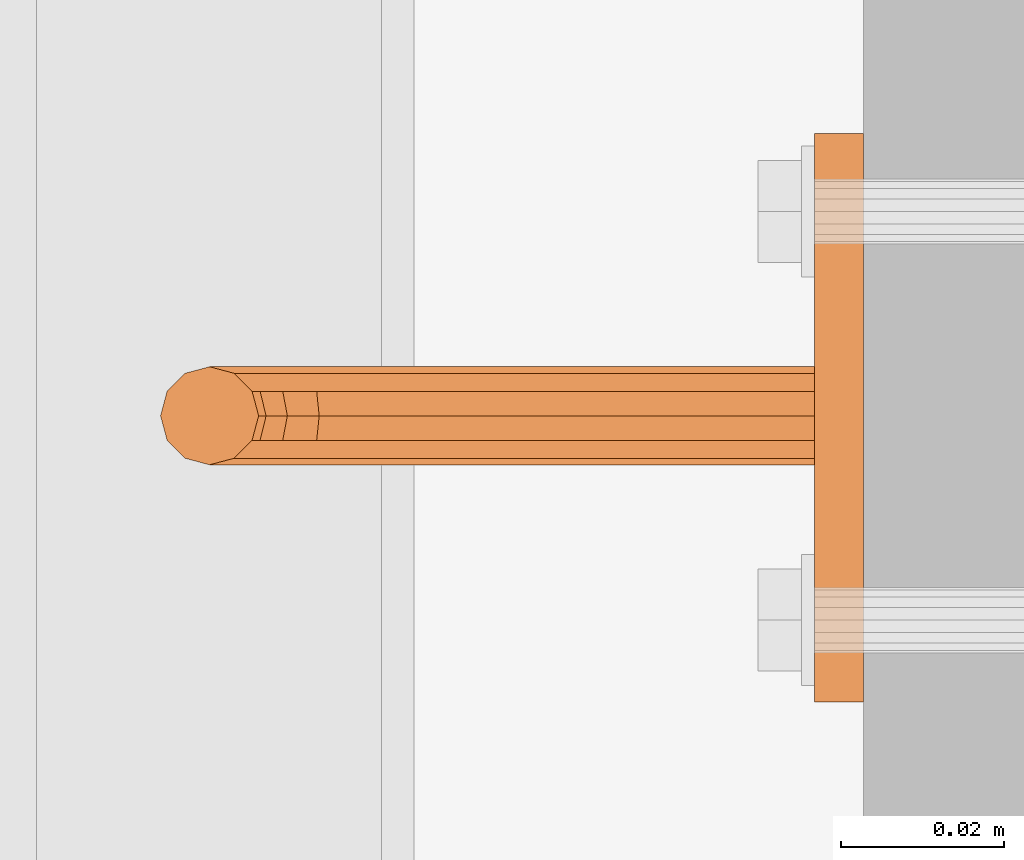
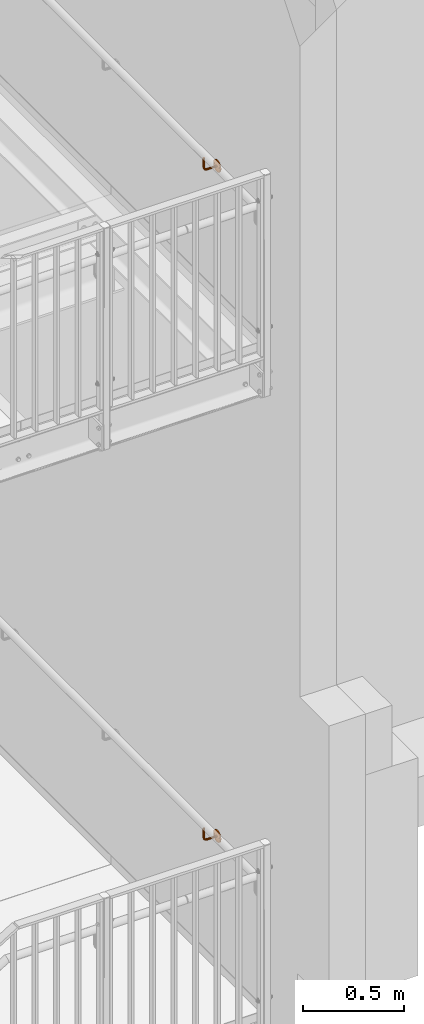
# One storey, part 387 of 410: 2 proxies.
"""IFC2X3 building model written with IfcOpenShell, lengths in millimetres."""

from ifc_helpers import new_model, entity, si_unit, converted_unit, origin_with_axes, place, context, project, spatial, faceted_brep, element, save


model = new_model("IFC2X3")

# Units and contexts
model_context = context("Model", 3, precision=1e-09, world=origin_with_axes())
ifc_project = project(units=[si_unit("LENGTHUNIT", "METRE", prefix="MILLI"), si_unit("AREAUNIT", "SQUARE_METRE"), si_unit("VOLUMEUNIT", "CUBIC_METRE"), converted_unit("PLANEANGLEUNIT", "DEGREE", entity("IfcPlaneAngleMeasure", 0.01745329), si_unit("PLANEANGLEUNIT", "RADIAN"), dimensions=[0, 0, 0, 0, 0, 0, 0])], contexts=[model_context])

# Site, building, storey
site_placement = place(None, origin_with_axes())
site = spatial("IfcSite", under=ifc_project, at=site_placement, Name="mKR Teilneubau & Sanierung BA1 - Ostfildern", CompositionType="ELEMENT")
building_placement = place(site_placement, origin_with_axes())
building = spatial("IfcBuilding", under=site, at=building_placement, Name="Struktur 1", CompositionType="ELEMENT")
storey_placement = place(building_placement, origin_with_axes())
storey = spatial("IfcBuildingStorey", under=building, at=storey_placement, Name="Default Storey", CompositionType="ELEMENT", Elevation=0.0)

# Proxies
proxy_1_placement = place(None, origin_with_axes())
element("IfcBuildingElementProxy", 1, at=proxy_1_placement, inside=storey, ObjectType="-", context=model_context, shape_type="Brep", body=[
    faceted_brep([(3289.999216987, 16051.680638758, -1410.875), (3283.999216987, 16051.680638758, -1410.875), (3283.999216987, 16052.250030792, -1413.0), (3289.999216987, 16052.250030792, -1413.0), (3283.999216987, 16003.856845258, -1383.699173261), (3283.999216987, 16014.408038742, -1379.070990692), (3283.999216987, 16025.890307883, -1378.119542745), (3283.999216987, 16037.059370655, -1380.947933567), (3283.999216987, 16046.704885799, -1387.249663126), (3283.999216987, 16053.781612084, -1396.341841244), (3283.999216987, 16057.522676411, -1407.23918934), (3283.999216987, 16057.522676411, -1418.76081066), (3283.999216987, 16053.781612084, -1429.658158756), (3283.999216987, 16046.704885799, -1438.750336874), (3283.999216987, 16037.059370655, -1445.052066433), (3283.999216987, 16025.890307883, -1447.880457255), (3283.999216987, 16014.408038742, -1446.929009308), (3283.999216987, 16003.856845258, -1442.300826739), (3283.999216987, 15995.380112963, -1434.497444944), (3283.999216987, 15989.896427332, -1424.364481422), (3283.999216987, 15988.000030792, -1413.0), (3283.999216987, 15989.896427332, -1401.635518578), (3283.999216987, 15995.380112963, -1391.502555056), (3283.999216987, 16050.125030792, -1409.319392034), (3283.999216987, 16048.000030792, -1408.75), (3283.999216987, 16045.875030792, -1409.319392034), (3283.999216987, 16044.319422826, -1410.875), (3283.999216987, 16043.750030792, -1413.0), (3283.999216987, 16044.319422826, -1415.125), (3283.999216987, 16045.875030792, -1416.680607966), (3283.999216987, 16048.000030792, -1417.25), (3283.999216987, 16050.125030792, -1416.680607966), (3283.999216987, 16051.680638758, -1415.125), (3283.999216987, 16001.680638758, -1410.875), (3283.999216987, 16000.125030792, -1409.319392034), (3283.999216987, 15998.000030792, -1408.75), (3283.999216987, 15995.875030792, -1409.319392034), (3283.999216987, 15994.319422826, -1410.875), (3283.999216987, 15993.750030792, -1413.0), (3283.999216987, 15994.319422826, -1415.125), (3283.999216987, 15995.875030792, -1416.680607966), (3283.999216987, 15998.000030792, -1417.25), (3283.999216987, 16000.125030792, -1416.680607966), (3283.999216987, 16001.680638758, -1415.125), (3283.999216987, 16002.250030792, -1413.0), (3289.999216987, 16050.125030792, -1409.319392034), (3289.999216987, 16003.856845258, -1442.300826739), (3289.999216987, 16014.408038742, -1446.929009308), (3289.999216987, 16025.890307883, -1447.880457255), (3289.999216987, 16037.059370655, -1445.052066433), (3289.999216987, 16046.704885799, -1438.750336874), (3289.999216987, 16053.781612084, -1429.658158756), (3289.999216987, 16057.522676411, -1418.76081066), (3289.999216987, 16057.522676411, -1407.23918934), (3289.999216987, 16053.781612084, -1396.341841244), (3289.999216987, 16046.704885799, -1387.249663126), (3289.999216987, 16037.059370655, -1380.947933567), (3289.999216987, 16025.890307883, -1378.119542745), (3289.999216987, 16014.408038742, -1379.070990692), (3289.999216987, 16003.856845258, -1383.699173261), (3289.999216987, 15995.380112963, -1391.502555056), (3289.999216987, 15989.896427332, -1401.635518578), (3289.999216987, 15988.000030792, -1413.0), (3289.999216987, 15989.896427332, -1424.364481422), (3289.999216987, 15995.380112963, -1434.497444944), (3289.999216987, 16051.680638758, -1415.125), (3289.999216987, 16050.125030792, -1416.680607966), (3289.999216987, 16048.000030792, -1417.25), (3289.999216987, 16045.875030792, -1416.680607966), (3289.999216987, 16044.319422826, -1415.125), (3289.999216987, 16043.750030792, -1413.0), (3289.999216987, 16044.319422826, -1410.875), (3289.999216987, 16045.875030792, -1409.319392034), (3289.999216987, 16048.000030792, -1408.75), (3289.999216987, 16001.680638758, -1415.125), (3289.999216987, 16000.125030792, -1416.680607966), (3289.999216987, 15998.000030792, -1417.25), (3289.999216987, 15995.875030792, -1416.680607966), (3289.999216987, 15994.319422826, -1415.125), (3289.999216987, 15993.750030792, -1413.0), (3289.999216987, 15994.319422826, -1410.875), (3289.999216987, 15995.875030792, -1409.319392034), (3289.999216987, 15998.000030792, -1408.75), (3289.999216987, 16000.125030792, -1409.319392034), (3289.999216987, 16001.680638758, -1410.875), (3289.999216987, 16002.250030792, -1413.0)], [[[0, 1, 2, 3]], [[4, 5, 6, 7, 8, 9, 10, 11, 12, 13, 14, 15, 16, 17, 18, 19, 20, 21, 22], [2, 1, 23, 24, 25, 26, 27, 28, 29, 30, 31, 32], [33, 34, 35, 36, 37, 38, 39, 40, 41, 42, 43, 44]], [[1, 0, 45, 23]], [[46, 47, 48, 49, 50, 51, 52, 53, 54, 55, 56, 57, 58, 59, 60, 61, 62, 63, 64], [0, 3, 65, 66, 67, 68, 69, 70, 71, 72, 73, 45], [74, 75, 76, 77, 78, 79, 80, 81, 82, 83, 84, 85]], [[3, 2, 32, 65]], [[10, 53, 52, 11]], [[65, 32, 31, 66]], [[23, 45, 73, 24]], [[53, 10, 9, 54]], [[66, 31, 30, 67]], [[11, 52, 51, 12]], [[24, 73, 72, 25]], [[8, 55, 54, 9]], [[67, 30, 29, 68]], [[55, 8, 7, 56]], [[50, 13, 12, 51]], [[25, 72, 71, 26]], [[13, 50, 49, 14]], [[68, 29, 28, 69]], [[26, 71, 70, 27]], [[56, 7, 6, 57]], [[69, 28, 27, 70]], [[14, 49, 48, 15]], [[57, 6, 5, 58]], [[44, 85, 84, 33]], [[15, 48, 47, 16]], [[85, 44, 43, 74]], [[33, 84, 83, 34]], [[58, 5, 4, 59]], [[16, 47, 46, 17]], [[74, 43, 42, 75]], [[34, 83, 82, 35]], [[59, 4, 22, 60]], [[17, 46, 64, 18]], [[75, 42, 41, 76]], [[35, 82, 81, 36]], [[60, 22, 21, 61]], [[18, 64, 63, 19]], [[76, 41, 40, 77]], [[20, 62, 61, 21]], [[36, 81, 80, 37]], [[62, 20, 19, 63]], [[77, 40, 39, 78]], [[37, 80, 79, 38]], [[78, 39, 38, 79]]]),
    faceted_brep([(3227.999216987, 16017.000030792, -1413.0), (3283.999216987, 16017.000030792, -1413.0), (3283.999216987, 16017.803878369, -1410.0), (3227.999216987, 16017.803878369, -1410.0), (3206.999216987, 16017.803878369, -1395.0), (3206.999216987, 16017.803878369, -1338.0), (3204.803064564, 16020.000030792, -1338.0), (3204.803064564, 16020.000030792, -1395.0), (3209.999216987, 16017.000030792, -1395.0), (3209.999216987, 16017.000030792, -1338.0), (3206.56876653, 16020.000030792, -1403.876783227), (3208.597746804, 16017.803878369, -1403.03635208), (3283.999216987, 16026.000030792, -1418.196152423), (3283.999216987, 16028.196183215, -1416.0), (3283.999216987, 16029.000030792, -1413.0), (3283.999216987, 16028.196183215, -1410.0), (3283.999216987, 16026.000030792, -1407.803847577), (3283.999216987, 16023.000030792, -1407.0), (3283.999216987, 16020.000030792, -1407.803847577), (3283.999216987, 16017.803878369, -1416.0), (3283.999216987, 16020.000030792, -1418.196152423), (3283.999216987, 16023.000030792, -1419.0), (3227.999216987, 16017.803878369, -1416.0), (3222.258965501, 16017.803878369, -1408.858192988), (3221.110915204, 16017.000030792, -1411.629831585), (3215.195369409, 16026.000030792, -1338.0), (3212.999216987, 16028.196183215, -1338.0), (3209.999216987, 16029.000030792, -1338.0), (3206.999216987, 16028.196183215, -1338.0), (3204.803064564, 16026.000030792, -1338.0), (3203.999216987, 16023.000030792, -1338.0), (3212.999216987, 16017.803878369, -1338.0), (3215.195369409, 16020.000030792, -1338.0), (3215.999216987, 16023.000030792, -1338.0), (3211.369385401, 16017.000030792, -1401.888301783), (3213.149974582, 16017.803878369, -1409.849242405), (3215.271294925, 16017.000030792, -1407.727922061), (3227.999216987, 16020.000030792, -1407.803847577), (3219.962864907, 16017.803878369, -1414.401470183), (3203.999216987, 16023.000030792, -1395.0), (3212.999216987, 16017.803878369, -1395.0), (3205.826108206, 16023.000030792, -1404.184402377), (3211.597060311, 16020.000030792, -1411.402156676), (3217.392615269, 16017.803878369, -1405.606601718), (3223.099396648, 16020.000030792, -1406.829212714), (3227.999216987, 16020.000030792, -1418.196152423), (3214.141023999, 16017.803878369, -1400.740251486), (3227.999216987, 16023.000030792, -1407.0), (3219.12243376, 16020.000030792, -1416.430450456), (3204.803064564, 16026.000030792, -1395.0), (3215.195369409, 16020.000030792, -1395.0), (3206.56876653, 16026.000030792, -1403.876783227), (3211.028654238, 16023.000030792, -1411.970562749), (3218.945529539, 16020.000030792, -1404.053687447), (3223.407015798, 16023.000030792, -1406.08655439), (3227.999216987, 16023.000030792, -1419.0), (3216.170004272, 16020.000030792, -1399.899820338), (3206.999216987, 16028.196183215, -1395.0), (3227.999216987, 16026.000030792, -1407.803847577), (3218.81481461, 16023.000030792, -1417.17310878), (3215.999216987, 16023.000030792, -1395.0), (3208.597746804, 16028.196183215, -1403.03635208), (3211.597060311, 16026.000030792, -1411.402156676), (3219.513935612, 16023.000030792, -1403.485281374), (3223.099396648, 16026.000030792, -1406.829212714), (3227.999216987, 16026.000030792, -1418.196152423), (3216.912662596, 16023.000030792, -1399.592201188), (3209.999216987, 16029.000030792, -1395.0), (3227.999216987, 16028.196183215, -1410.0), (3219.12243376, 16026.000030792, -1416.430450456), (3215.195369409, 16026.000030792, -1395.0), (3212.999216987, 16028.196183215, -1395.0), (3211.369385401, 16029.000030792, -1401.888301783), (3213.149974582, 16028.196183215, -1409.849242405), (3218.945529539, 16026.000030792, -1404.053687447), (3222.258965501, 16028.196183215, -1408.858192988), (3227.999216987, 16029.000030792, -1413.0), (3227.999216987, 16028.196183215, -1416.0), (3216.170004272, 16026.000030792, -1399.899820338), (3219.962864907, 16028.196183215, -1414.401470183), (3214.141023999, 16028.196183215, -1400.740251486), (3215.271294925, 16029.000030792, -1407.727922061), (3221.110915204, 16029.000030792, -1411.629831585), (3217.392615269, 16028.196183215, -1405.606601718)], [[[0, 1, 2, 3]], [[4, 5, 6, 7]], [[5, 4, 8, 9]], [[4, 7, 10, 11]], [[12, 13, 14, 15, 16, 17, 18, 2, 1, 19, 20, 21]], [[1, 0, 22, 19]], [[0, 3, 23, 24]], [[25, 26, 27, 28, 29, 30, 6, 5, 9, 31, 32, 33]], [[11, 34, 8, 4]], [[35, 36, 34, 11]], [[3, 2, 18, 37]], [[24, 38, 22, 0]], [[36, 35, 38, 24]], [[7, 6, 30, 39]], [[9, 8, 40, 31]], [[7, 39, 41, 10]], [[11, 10, 42, 35]], [[24, 23, 43, 36]], [[3, 37, 44, 23]], [[19, 22, 45, 20]], [[36, 43, 46, 34]], [[34, 46, 40, 8]], [[37, 18, 17, 47]], [[38, 48, 45, 22]], [[35, 42, 48, 38]], [[39, 30, 29, 49]], [[31, 40, 50, 32]], [[39, 49, 51, 41]], [[10, 41, 52, 42]], [[23, 44, 53, 43]], [[37, 47, 54, 44]], [[20, 45, 55, 21]], [[43, 53, 56, 46]], [[46, 56, 50, 40]], [[49, 29, 28, 57]], [[47, 17, 16, 58]], [[48, 59, 55, 45]], [[42, 52, 59, 48]], [[32, 50, 60, 33]], [[49, 57, 61, 51]], [[41, 51, 62, 52]], [[44, 54, 63, 53]], [[47, 58, 64, 54]], [[21, 55, 65, 12]], [[56, 66, 60, 50]], [[53, 63, 66, 56]], [[57, 28, 27, 67]], [[58, 16, 15, 68]], [[59, 69, 65, 55]], [[52, 62, 69, 59]], [[33, 60, 70, 25]], [[26, 71, 67, 27]], [[25, 70, 71, 26]], [[57, 67, 72, 61]], [[51, 61, 73, 62]], [[54, 64, 74, 63]], [[58, 68, 75, 64]], [[14, 76, 68, 15]], [[13, 77, 76, 14]], [[12, 65, 77, 13]], [[66, 78, 70, 60]], [[63, 74, 78, 66]], [[69, 79, 77, 65]], [[62, 73, 79, 69]], [[67, 71, 80, 72]], [[71, 70, 78, 80]], [[61, 72, 81, 73]], [[68, 76, 82, 75]], [[64, 75, 83, 74]], [[76, 77, 79, 82]], [[74, 83, 80, 78]], [[73, 81, 82, 79]], [[72, 80, 83, 81]], [[75, 82, 81, 83]]]),
])
proxy_2_placement = place(None, origin_with_axes())
element("IfcBuildingElementProxy", 2, at=proxy_2_placement, inside=storey, ObjectType="-", context=model_context, shape_type="Brep", body=[
    faceted_brep([(3289.999216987, 16051.680638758, 2647.7684785), (3283.999216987, 16051.680638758, 2647.7684785), (3283.999216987, 16052.250030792, 2645.6434785), (3289.999216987, 16052.250030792, 2645.6434785), (3283.999216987, 16003.856845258, 2674.944305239), (3283.999216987, 16014.408038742, 2679.572487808), (3283.999216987, 16025.890307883, 2680.523935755), (3283.999216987, 16037.059370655, 2677.695544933), (3283.999216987, 16046.704885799, 2671.393815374), (3283.999216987, 16053.781612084, 2662.301637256), (3283.999216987, 16057.522676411, 2651.40428916), (3283.999216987, 16057.522676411, 2639.88266784), (3283.999216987, 16053.781612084, 2628.985319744), (3283.999216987, 16046.704885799, 2619.893141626), (3283.999216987, 16037.059370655, 2613.591412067), (3283.999216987, 16025.890307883, 2610.763021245), (3283.999216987, 16014.408038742, 2611.714469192), (3283.999216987, 16003.856845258, 2616.342651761), (3283.999216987, 15995.380112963, 2624.146033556), (3283.999216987, 15989.896427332, 2634.278997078), (3283.999216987, 15988.000030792, 2645.6434785), (3283.999216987, 15989.896427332, 2657.007959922), (3283.999216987, 15995.380112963, 2667.140923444), (3283.999216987, 16050.125030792, 2649.324086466), (3283.999216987, 16048.000030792, 2649.8934785), (3283.999216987, 16045.875030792, 2649.324086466), (3283.999216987, 16044.319422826, 2647.7684785), (3283.999216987, 16043.750030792, 2645.6434785), (3283.999216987, 16044.319422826, 2643.5184785), (3283.999216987, 16045.875030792, 2641.962870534), (3283.999216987, 16048.000030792, 2641.3934785), (3283.999216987, 16050.125030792, 2641.962870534), (3283.999216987, 16051.680638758, 2643.5184785), (3283.999216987, 16001.680638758, 2647.7684785), (3283.999216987, 16000.125030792, 2649.324086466), (3283.999216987, 15998.000030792, 2649.8934785), (3283.999216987, 15995.875030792, 2649.324086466), (3283.999216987, 15994.319422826, 2647.7684785), (3283.999216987, 15993.750030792, 2645.6434785), (3283.999216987, 15994.319422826, 2643.5184785), (3283.999216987, 15995.875030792, 2641.962870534), (3283.999216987, 15998.000030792, 2641.3934785), (3283.999216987, 16000.125030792, 2641.962870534), (3283.999216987, 16001.680638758, 2643.5184785), (3283.999216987, 16002.250030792, 2645.6434785), (3289.999216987, 16050.125030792, 2649.324086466), (3289.999216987, 16003.856845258, 2616.342651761), (3289.999216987, 16014.408038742, 2611.714469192), (3289.999216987, 16025.890307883, 2610.763021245), (3289.999216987, 16037.059370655, 2613.591412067), (3289.999216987, 16046.704885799, 2619.893141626), (3289.999216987, 16053.781612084, 2628.985319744), (3289.999216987, 16057.522676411, 2639.88266784), (3289.999216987, 16057.522676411, 2651.40428916), (3289.999216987, 16053.781612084, 2662.301637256), (3289.999216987, 16046.704885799, 2671.393815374), (3289.999216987, 16037.059370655, 2677.695544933), (3289.999216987, 16025.890307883, 2680.523935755), (3289.999216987, 16014.408038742, 2679.572487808), (3289.999216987, 16003.856845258, 2674.944305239), (3289.999216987, 15995.380112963, 2667.140923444), (3289.999216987, 15989.896427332, 2657.007959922), (3289.999216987, 15988.000030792, 2645.6434785), (3289.999216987, 15989.896427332, 2634.278997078), (3289.999216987, 15995.380112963, 2624.146033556), (3289.999216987, 16051.680638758, 2643.5184785), (3289.999216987, 16050.125030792, 2641.962870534), (3289.999216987, 16048.000030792, 2641.3934785), (3289.999216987, 16045.875030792, 2641.962870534), (3289.999216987, 16044.319422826, 2643.5184785), (3289.999216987, 16043.750030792, 2645.6434785), (3289.999216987, 16044.319422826, 2647.7684785), (3289.999216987, 16045.875030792, 2649.324086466), (3289.999216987, 16048.000030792, 2649.8934785), (3289.999216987, 16001.680638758, 2643.5184785), (3289.999216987, 16000.125030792, 2641.962870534), (3289.999216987, 15998.000030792, 2641.3934785), (3289.999216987, 15995.875030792, 2641.962870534), (3289.999216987, 15994.319422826, 2643.5184785), (3289.999216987, 15993.750030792, 2645.6434785), (3289.999216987, 15994.319422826, 2647.7684785), (3289.999216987, 15995.875030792, 2649.324086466), (3289.999216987, 15998.000030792, 2649.8934785), (3289.999216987, 16000.125030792, 2649.324086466), (3289.999216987, 16001.680638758, 2647.7684785), (3289.999216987, 16002.250030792, 2645.6434785)], [[[0, 1, 2, 3]], [[4, 5, 6, 7, 8, 9, 10, 11, 12, 13, 14, 15, 16, 17, 18, 19, 20, 21, 22], [2, 1, 23, 24, 25, 26, 27, 28, 29, 30, 31, 32], [33, 34, 35, 36, 37, 38, 39, 40, 41, 42, 43, 44]], [[1, 0, 45, 23]], [[46, 47, 48, 49, 50, 51, 52, 53, 54, 55, 56, 57, 58, 59, 60, 61, 62, 63, 64], [0, 3, 65, 66, 67, 68, 69, 70, 71, 72, 73, 45], [74, 75, 76, 77, 78, 79, 80, 81, 82, 83, 84, 85]], [[3, 2, 32, 65]], [[10, 53, 52, 11]], [[65, 32, 31, 66]], [[23, 45, 73, 24]], [[53, 10, 9, 54]], [[66, 31, 30, 67]], [[11, 52, 51, 12]], [[24, 73, 72, 25]], [[8, 55, 54, 9]], [[67, 30, 29, 68]], [[55, 8, 7, 56]], [[50, 13, 12, 51]], [[25, 72, 71, 26]], [[13, 50, 49, 14]], [[68, 29, 28, 69]], [[26, 71, 70, 27]], [[56, 7, 6, 57]], [[69, 28, 27, 70]], [[14, 49, 48, 15]], [[57, 6, 5, 58]], [[44, 85, 84, 33]], [[15, 48, 47, 16]], [[85, 44, 43, 74]], [[33, 84, 83, 34]], [[58, 5, 4, 59]], [[16, 47, 46, 17]], [[74, 43, 42, 75]], [[34, 83, 82, 35]], [[59, 4, 22, 60]], [[17, 46, 64, 18]], [[75, 42, 41, 76]], [[35, 82, 81, 36]], [[60, 22, 21, 61]], [[18, 64, 63, 19]], [[76, 41, 40, 77]], [[20, 62, 61, 21]], [[36, 81, 80, 37]], [[62, 20, 19, 63]], [[77, 40, 39, 78]], [[37, 80, 79, 38]], [[78, 39, 38, 79]]]),
    faceted_brep([(3227.999216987, 16017.000030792, 2645.6434785), (3283.999216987, 16017.000030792, 2645.6434785), (3283.999216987, 16017.803878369, 2648.6434785), (3227.999216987, 16017.803878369, 2648.6434785), (3206.999216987, 16017.803878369, 2663.6434785), (3206.999216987, 16017.803878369, 2720.6434785), (3204.803064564, 16020.000030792, 2720.6434785), (3204.803064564, 16020.000030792, 2663.6434785), (3209.999216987, 16017.000030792, 2663.6434785), (3209.999216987, 16017.000030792, 2720.6434785), (3206.56876653, 16020.000030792, 2654.766695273), (3208.597746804, 16017.803878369, 2655.60712642), (3283.999216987, 16026.000030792, 2640.447326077), (3283.999216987, 16028.196183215, 2642.6434785), (3283.999216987, 16029.000030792, 2645.6434785), (3283.999216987, 16028.196183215, 2648.6434785), (3283.999216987, 16026.000030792, 2650.839630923), (3283.999216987, 16023.000030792, 2651.6434785), (3283.999216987, 16020.000030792, 2650.839630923), (3283.999216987, 16017.803878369, 2642.6434785), (3283.999216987, 16020.000030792, 2640.447326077), (3283.999216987, 16023.000030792, 2639.6434785), (3227.999216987, 16017.803878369, 2642.6434785), (3222.258965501, 16017.803878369, 2649.785285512), (3221.110915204, 16017.000030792, 2647.013646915), (3215.195369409, 16026.000030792, 2720.6434785), (3212.999216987, 16028.196183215, 2720.6434785), (3209.999216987, 16029.000030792, 2720.6434785), (3206.999216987, 16028.196183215, 2720.6434785), (3204.803064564, 16026.000030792, 2720.6434785), (3203.999216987, 16023.000030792, 2720.6434785), (3212.999216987, 16017.803878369, 2720.6434785), (3215.195369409, 16020.000030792, 2720.6434785), (3215.999216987, 16023.000030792, 2720.6434785), (3211.369385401, 16017.000030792, 2656.755176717), (3213.149974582, 16017.803878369, 2648.794236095), (3215.271294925, 16017.000030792, 2650.915556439), (3227.999216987, 16020.000030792, 2650.839630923), (3219.962864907, 16017.803878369, 2644.242008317), (3203.999216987, 16023.000030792, 2663.6434785), (3212.999216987, 16017.803878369, 2663.6434785), (3205.826108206, 16023.000030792, 2654.459076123), (3211.597060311, 16020.000030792, 2647.241321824), (3217.392615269, 16017.803878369, 2653.036876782), (3223.099396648, 16020.000030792, 2651.814265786), (3227.999216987, 16020.000030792, 2640.447326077), (3214.141023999, 16017.803878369, 2657.903227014), (3227.999216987, 16023.000030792, 2651.6434785), (3219.12243376, 16020.000030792, 2642.213028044), (3204.803064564, 16026.000030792, 2663.6434785), (3215.195369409, 16020.000030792, 2663.6434785), (3206.56876653, 16026.000030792, 2654.766695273), (3211.028654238, 16023.000030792, 2646.672915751), (3218.945529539, 16020.000030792, 2654.589791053), (3223.407015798, 16023.000030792, 2652.55692411), (3227.999216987, 16023.000030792, 2639.6434785), (3216.170004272, 16020.000030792, 2658.743658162), (3206.999216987, 16028.196183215, 2663.6434785), (3227.999216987, 16026.000030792, 2650.839630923), (3218.81481461, 16023.000030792, 2641.47036972), (3215.999216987, 16023.000030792, 2663.6434785), (3208.597746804, 16028.196183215, 2655.60712642), (3211.597060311, 16026.000030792, 2647.241321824), (3219.513935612, 16023.000030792, 2655.158197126), (3223.099396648, 16026.000030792, 2651.814265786), (3227.999216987, 16026.000030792, 2640.447326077), (3216.912662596, 16023.000030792, 2659.051277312), (3209.999216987, 16029.000030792, 2663.6434785), (3227.999216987, 16028.196183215, 2648.6434785), (3219.12243376, 16026.000030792, 2642.213028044), (3215.195369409, 16026.000030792, 2663.6434785), (3212.999216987, 16028.196183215, 2663.6434785), (3211.369385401, 16029.000030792, 2656.755176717), (3213.149974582, 16028.196183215, 2648.794236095), (3218.945529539, 16026.000030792, 2654.589791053), (3222.258965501, 16028.196183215, 2649.785285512), (3227.999216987, 16029.000030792, 2645.6434785), (3227.999216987, 16028.196183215, 2642.6434785), (3216.170004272, 16026.000030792, 2658.743658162), (3219.962864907, 16028.196183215, 2644.242008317), (3214.141023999, 16028.196183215, 2657.903227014), (3215.271294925, 16029.000030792, 2650.915556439), (3221.110915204, 16029.000030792, 2647.013646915), (3217.392615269, 16028.196183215, 2653.036876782)], [[[0, 1, 2, 3]], [[4, 5, 6, 7]], [[5, 4, 8, 9]], [[4, 7, 10, 11]], [[12, 13, 14, 15, 16, 17, 18, 2, 1, 19, 20, 21]], [[1, 0, 22, 19]], [[0, 3, 23, 24]], [[25, 26, 27, 28, 29, 30, 6, 5, 9, 31, 32, 33]], [[11, 34, 8, 4]], [[35, 36, 34, 11]], [[3, 2, 18, 37]], [[24, 38, 22, 0]], [[36, 35, 38, 24]], [[7, 6, 30, 39]], [[9, 8, 40, 31]], [[7, 39, 41, 10]], [[11, 10, 42, 35]], [[24, 23, 43, 36]], [[3, 37, 44, 23]], [[19, 22, 45, 20]], [[36, 43, 46, 34]], [[34, 46, 40, 8]], [[37, 18, 17, 47]], [[38, 48, 45, 22]], [[35, 42, 48, 38]], [[39, 30, 29, 49]], [[31, 40, 50, 32]], [[39, 49, 51, 41]], [[10, 41, 52, 42]], [[23, 44, 53, 43]], [[37, 47, 54, 44]], [[20, 45, 55, 21]], [[43, 53, 56, 46]], [[46, 56, 50, 40]], [[49, 29, 28, 57]], [[47, 17, 16, 58]], [[48, 59, 55, 45]], [[42, 52, 59, 48]], [[32, 50, 60, 33]], [[49, 57, 61, 51]], [[41, 51, 62, 52]], [[44, 54, 63, 53]], [[47, 58, 64, 54]], [[21, 55, 65, 12]], [[56, 66, 60, 50]], [[53, 63, 66, 56]], [[57, 28, 27, 67]], [[58, 16, 15, 68]], [[59, 69, 65, 55]], [[52, 62, 69, 59]], [[33, 60, 70, 25]], [[26, 71, 67, 27]], [[25, 70, 71, 26]], [[57, 67, 72, 61]], [[51, 61, 73, 62]], [[54, 64, 74, 63]], [[58, 68, 75, 64]], [[14, 76, 68, 15]], [[13, 77, 76, 14]], [[12, 65, 77, 13]], [[66, 78, 70, 60]], [[63, 74, 78, 66]], [[69, 79, 77, 65]], [[62, 73, 79, 69]], [[67, 71, 80, 72]], [[71, 70, 78, 80]], [[61, 72, 81, 73]], [[68, 76, 82, 75]], [[64, 75, 83, 74]], [[76, 77, 79, 82]], [[74, 83, 80, 78]], [[73, 81, 82, 79]], [[72, 80, 83, 81]], [[75, 82, 81, 83]]]),
])

save(model, "model.ifc")
